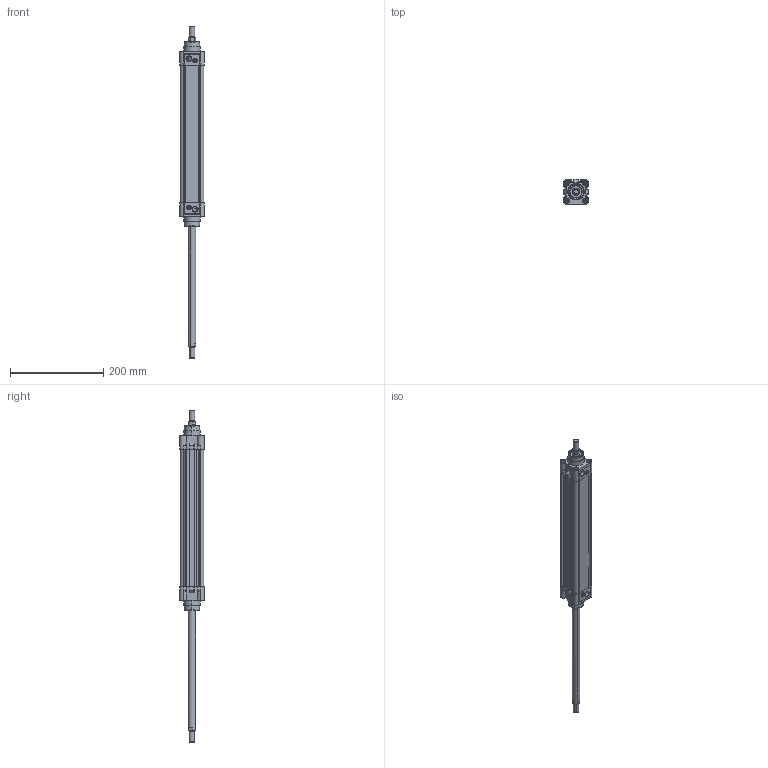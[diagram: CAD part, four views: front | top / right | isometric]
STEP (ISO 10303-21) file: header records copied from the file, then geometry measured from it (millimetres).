
FILE_DESCRIPTION (( 'STEP AP203' ), '1' );
FILE_NAME ('KDNC40X250CIFTMILLI-CYLINDER.STEP', '2016-03-18T13:43:23', ( 'user' ), ( '' ), 'SwSTEP 2.0', 'SolidWorks 2013', '' );
FILE_SCHEMA (( 'CONFIG_CONTROL_DESIGN' ));
Length unit declared in the file: millimetre
Products named in the file (6): ORTA PÝSTON 40 Çift Milli; PÝSTON MÝLÝ 40X250; Saplama Mili 40X250 STROK; KDNC40X250CIFTMILLI-CYLINDER; 烰 KAPAK  40; KDNC 40x250 BORU
Assembly tree (6 placements, depth 2):
  KDNC40X250CIFTMILLI-CYLINDER
    烰 KAPAK  40  x2
    KDNC 40x250 BORU
    ORTA PÝSTON 40 Çift Milli
    PÝSTON MÝLÝ 40X250
    Saplama Mili 40X250 STROK
Bounding box: 53 x 53.3 x 713.1 mm (x, y, z)
Volume: 599504 mm3; surface area: 241645.1 mm2
Topology: 8 solids, 8 shells, 742 faces, 1874 edges, 1198 vertices
Faces by surface type: cylinder 304, plane 258, cone 112, bspline 66, torus 2
Entity records: 20147 total; most frequent: CARTESIAN_POINT 8138, ORIENTED_EDGE 2524, DIRECTION 2098, EDGE_CURVE 1262, VERTEX_POINT 810, AXIS2_PLACEMENT_3D 743, VECTOR 612, LINE 612
